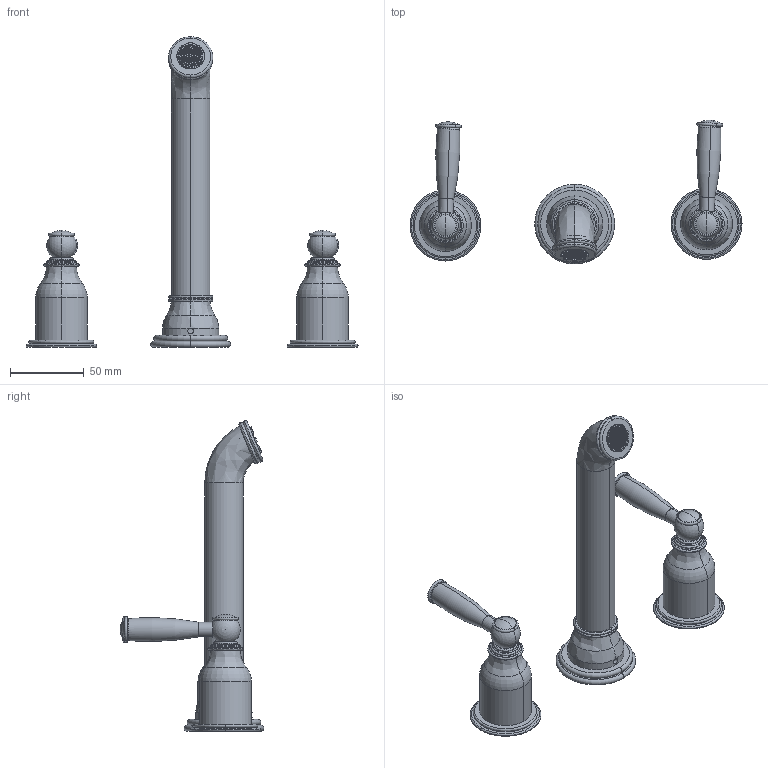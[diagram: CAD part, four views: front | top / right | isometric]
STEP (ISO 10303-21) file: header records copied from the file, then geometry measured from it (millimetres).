
FILE_DESCRIPTION (( 'STEP AP203' ), '1' );
FILE_NAME ('84325210 corr x architetti.STEP', '2026-07-06T09:08:52', ( '' ), ( '' ), 'SwSTEP 2.0', 'SolidWorks 2020', '' );
FILE_SCHEMA (( 'CONFIG_CONTROL_DESIGN' ));
Length unit declared in the file: millimetre
Products named in the file (1): 84325210 corr x architetti
Bounding box: 224.63 x 97.25 x 210.1 mm (x, y, z)
Volume: 225982.4 mm3; surface area: 67731.1 mm2
Topology: 13 solids, 15 shells, 4303 faces, 12268 edges, 7912 vertices
Faces by surface type: plane 3471, cylinder 541, bspline 157, torus 68, cone 62, sphere 4
Entity records: 153083 total; most frequent: CARTESIAN_POINT 51747, ORIENTED_EDGE 24464, DIRECTION 15719, EDGE_CURVE 12232, VERTEX_POINT 7904, VECTOR 5609, LINE 5609, B_SPLINE_CURVE_WITH_KNOTS 5071
